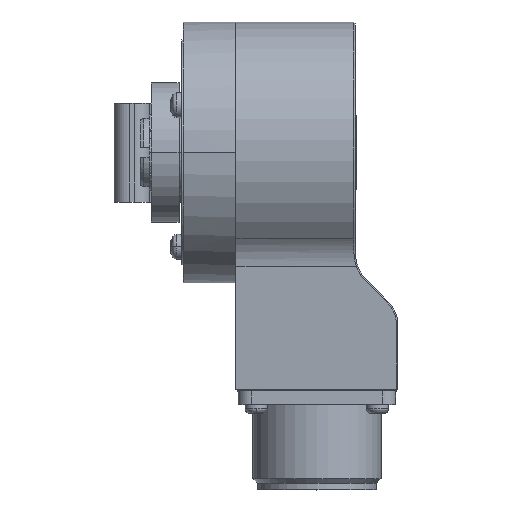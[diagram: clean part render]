
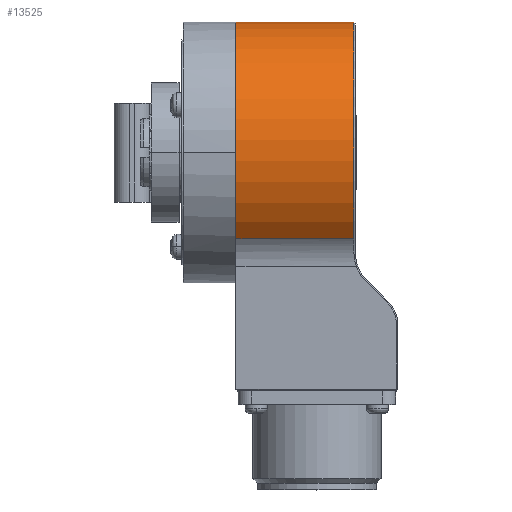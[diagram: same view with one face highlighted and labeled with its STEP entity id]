
A CAD part, top view. The second image highlights one B-rep face of the part: STEP entity #13525.
In plain terms, the highlighted cylindrical face has radius 29 mm (diameter 58 mm), a partial arc.
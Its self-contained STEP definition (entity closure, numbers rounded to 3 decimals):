
#1037 = DIRECTION ( 'NONE',  ( 0., 1., 0. ) ) ;
#1857 = LINE ( 'NONE', #12131, #22183 ) ;
#2165 = ORIENTED_EDGE ( 'NONE', *, *, #23674, .T. ) ;
#2209 = DIRECTION ( 'NONE',  ( -1., 0., 0. ) ) ;
#3147 = AXIS2_PLACEMENT_3D ( 'NONE', #5663, #14020, #1037 ) ;
#5105 = ORIENTED_EDGE ( 'NONE', *, *, #24641, .F. ) ;
#5312 = CIRCLE ( 'NONE', #17600, 29. ) ;
#5511 = CARTESIAN_POINT ( 'NONE',  ( 8.068, 54.423, 0. ) ) ;
#5663 = CARTESIAN_POINT ( 'NONE',  ( 8.068, 25.423, 0. ) ) ;
#7348 = AXIS2_PLACEMENT_3D ( 'NONE', #24963, #10433, #23052 ) ;
#8113 = CARTESIAN_POINT ( 'NONE',  ( 34.268, 25.423, 0. ) ) ;
#8518 = CARTESIAN_POINT ( 'NONE',  ( 8.068, 6.195, 21.709 ) ) ;
#9325 = ORIENTED_EDGE ( 'NONE', *, *, #21447, .T. ) ;
#9632 = EDGE_LOOP ( 'NONE', ( #5105, #2165, #9325, #25612 ) ) ;
#10433 = DIRECTION ( 'NONE',  ( 1., 0., 0. ) ) ;
#11573 = CYLINDRICAL_SURFACE ( 'NONE', #3147, 29. ) ;
#12131 = CARTESIAN_POINT ( 'NONE',  ( 8.068, 6.195, 21.709 ) ) ;
#13525 = ADVANCED_FACE ( 'NONE', ( #24445 ), #11573, .T. ) ;
#13615 = DIRECTION ( 'NONE',  ( 1., 0., 0. ) ) ;
#14020 = DIRECTION ( 'NONE',  ( 1., 0., 0. ) ) ;
#15268 = CARTESIAN_POINT ( 'NONE',  ( 34.268, 54.423, 0. ) ) ;
#15797 = LINE ( 'NONE', #5511, #25475 ) ;
#16615 = VERTEX_POINT ( 'NONE', #19477 ) ;
#17600 = AXIS2_PLACEMENT_3D ( 'NONE', #8113, #2209, #24693 ) ;
#18325 = DIRECTION ( 'NONE',  ( 1., 0., 0. ) ) ;
#19477 = CARTESIAN_POINT ( 'NONE',  ( 34.268, 6.195, 21.709 ) ) ;
#19606 = CIRCLE ( 'NONE', #7348, 29. ) ;
#19995 = VERTEX_POINT ( 'NONE', #8518 ) ;
#21064 = VERTEX_POINT ( 'NONE', #22225 ) ;
#21447 = EDGE_CURVE ( 'NONE', #19995, #16615, #1857, .T. ) ;
#21860 = VERTEX_POINT ( 'NONE', #15268 ) ;
#22183 = VECTOR ( 'NONE', #18325, 1000. ) ;
#22225 = CARTESIAN_POINT ( 'NONE',  ( 8.068, 54.423, 0. ) ) ;
#23052 = DIRECTION ( 'NONE',  ( 0., 1., 0. ) ) ;
#23674 = EDGE_CURVE ( 'NONE', #21064, #19995, #19606, .T. ) ;
#24445 = FACE_OUTER_BOUND ( 'NONE', #9632, .T. ) ;
#24641 = EDGE_CURVE ( 'NONE', #21064, #21860, #15797, .T. ) ;
#24693 = DIRECTION ( 'NONE',  ( 0., 1., 0. ) ) ;
#24720 = EDGE_CURVE ( 'NONE', #16615, #21860, #5312, .T. ) ;
#24963 = CARTESIAN_POINT ( 'NONE',  ( 8.068, 25.423, 0. ) ) ;
#25475 = VECTOR ( 'NONE', #13615, 1000. ) ;
#25612 = ORIENTED_EDGE ( 'NONE', *, *, #24720, .T. ) ;
